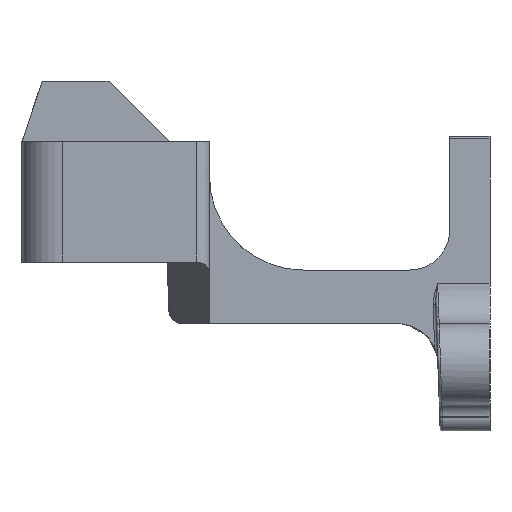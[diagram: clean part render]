
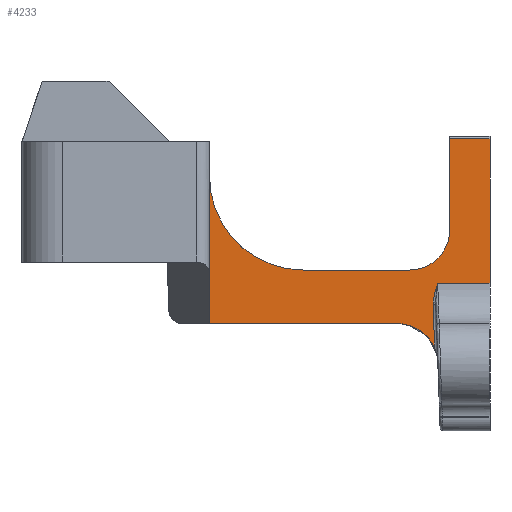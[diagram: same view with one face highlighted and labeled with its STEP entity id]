
A CAD part, left-side view. The second image highlights one B-rep face of the part: STEP entity #4233.
In plain terms, the highlighted planar face has unit normal (-1, 0, 0).
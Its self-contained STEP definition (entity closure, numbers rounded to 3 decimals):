
#17 = ORIENTED_EDGE ( 'NONE', *, *, #2860, .F. ) ;
#26 = CARTESIAN_POINT ( 'NONE',  ( 9.55, 4.355, 7.448 ) ) ;
#27 = LINE ( 'NONE', #378, #4224 ) ;
#56 = CIRCLE ( 'NONE', #2776, 7. ) ;
#64 = DIRECTION ( 'NONE',  ( 1., 0., 0. ) ) ;
#82 = ORIENTED_EDGE ( 'NONE', *, *, #1128, .T. ) ;
#134 = EDGE_CURVE ( 'NONE', #1388, #2795, #56, .T. ) ;
#182 = EDGE_CURVE ( 'NONE', #2795, #2487, #1245, .T. ) ;
#194 = CARTESIAN_POINT ( 'NONE',  ( 9.55, 0., 7. ) ) ;
#230 = CARTESIAN_POINT ( 'NONE',  ( 9.55, 0., 7.6 ) ) ;
#378 = CARTESIAN_POINT ( 'NONE',  ( 9.55, 0., 6. ) ) ;
#418 = PLANE ( 'NONE',  #3383 ) ;
#543 = CARTESIAN_POINT ( 'NONE',  ( 9.55, 6., 7. ) ) ;
#545 = CARTESIAN_POINT ( 'NONE',  ( 9.55, 4.26, 4.707 ) ) ;
#580 = VECTOR ( 'NONE', #2373, 1000. ) ;
#626 = CARTESIAN_POINT ( 'NONE',  ( 9.55, 13.95, 14. ) ) ;
#642 = VERTEX_POINT ( 'NONE', #1384 ) ;
#645 = DIRECTION ( 'NONE',  ( 1., 0., 0. ) ) ;
#743 = DIRECTION ( 'NONE',  ( 1., 0., 0. ) ) ;
#753 = CARTESIAN_POINT ( 'NONE',  ( 9.55, 3., 7. ) ) ;
#769 = CIRCLE ( 'NONE', #4518, 3. ) ;
#775 = CARTESIAN_POINT ( 'NONE',  ( 9.55, 20.95, 3. ) ) ;
#835 = VECTOR ( 'NONE', #1643, 1000. ) ;
#847 = CARTESIAN_POINT ( 'NONE',  ( 9.55, 0., 6. ) ) ;
#883 = ORIENTED_EDGE ( 'NONE', *, *, #2211, .T. ) ;
#997 = EDGE_CURVE ( 'NONE', #1388, #3170, #3187, .T. ) ;
#1026 = EDGE_LOOP ( 'NONE', ( #17, #3210, #4092, #1723, #1435, #4344, #1042, #4563, #1307, #82, #2177, #883 ) ) ;
#1042 = ORIENTED_EDGE ( 'NONE', *, *, #182, .T. ) ;
#1056 = CARTESIAN_POINT ( 'NONE',  ( 9.55, 3.905, 6. ) ) ;
#1071 = EDGE_CURVE ( 'NONE', #642, #3170, #3524, .T. ) ;
#1077 = DIRECTION ( 'NONE',  ( 0., 0.035, 0.999 ) ) ;
#1111 = VECTOR ( 'NONE', #1152, 1000. ) ;
#1114 = DIRECTION ( 'NONE',  ( 0., 0., 1. ) ) ;
#1128 = EDGE_CURVE ( 'NONE', #4538, #2348, #1658, .T. ) ;
#1152 = DIRECTION ( 'NONE',  ( 0., 1., 0. ) ) ;
#1155 = LINE ( 'NONE', #753, #1637 ) ;
#1205 = CARTESIAN_POINT ( 'NONE',  ( 9.55, 4.211, 4.971 ) ) ;
#1220 = CARTESIAN_POINT ( 'NONE',  ( 9.55, 4.136, 1.174 ) ) ;
#1245 = LINE ( 'NONE', #1319, #1621 ) ;
#1295 = DIRECTION ( 'NONE',  ( 0., -1., 0. ) ) ;
#1307 = ORIENTED_EDGE ( 'NONE', *, *, #2559, .T. ) ;
#1319 = CARTESIAN_POINT ( 'NONE',  ( 9.55, 20.95, 7.6 ) ) ;
#1320 = LINE ( 'NONE', #2661, #835 ) ;
#1374 = EDGE_CURVE ( 'NONE', #2348, #1590, #3503, .T. ) ;
#1384 = CARTESIAN_POINT ( 'NONE',  ( 9.55, 3., 10. ) ) ;
#1388 = VERTEX_POINT ( 'NONE', #4407 ) ;
#1392 = DIRECTION ( 'NONE',  ( 0., 0., -1. ) ) ;
#1395 = VECTOR ( 'NONE', #1077, 1000. ) ;
#1435 = ORIENTED_EDGE ( 'NONE', *, *, #997, .F. ) ;
#1590 = VERTEX_POINT ( 'NONE', #1056 ) ;
#1621 = VECTOR ( 'NONE', #2384, 1000. ) ;
#1637 = VECTOR ( 'NONE', #1114, 1000. ) ;
#1643 = DIRECTION ( 'NONE',  ( 0., 1., 0. ) ) ;
#1658 = LINE ( 'NONE', #26, #1395 ) ;
#1723 = ORIENTED_EDGE ( 'NONE', *, *, #1071, .T. ) ;
#1850 = VERTEX_POINT ( 'NONE', #3789 ) ;
#2039 = DIRECTION ( 'NONE',  ( 1., 0., 0. ) ) ;
#2072 = EDGE_CURVE ( 'NONE', #4215, #2487, #4162, .T. ) ;
#2177 = ORIENTED_EDGE ( 'NONE', *, *, #1374, .T. ) ;
#2181 = CARTESIAN_POINT ( 'NONE',  ( 9.55, 6.897, 3. ) ) ;
#2211 = EDGE_CURVE ( 'NONE', #1590, #3976, #27, .T. ) ;
#2298 = EDGE_CURVE ( 'NONE', #1850, #4504, #1320, .T. ) ;
#2348 = VERTEX_POINT ( 'NONE', #4131 ) ;
#2373 = DIRECTION ( 'NONE',  ( 0., 0., -1. ) ) ;
#2384 = DIRECTION ( 'NONE',  ( 0., 0., -1. ) ) ;
#2399 = CARTESIAN_POINT ( 'NONE',  ( 9.55, 6., 10. ) ) ;
#2423 = FACE_OUTER_BOUND ( 'NONE', #1026, .T. ) ;
#2456 = DIRECTION ( 'NONE',  ( 0., -1., 0. ) ) ;
#2487 = VERTEX_POINT ( 'NONE', #775 ) ;
#2519 = EDGE_CURVE ( 'NONE', #642, #4504, #1155, .T. ) ;
#2559 = EDGE_CURVE ( 'NONE', #4215, #4538, #769, .T. ) ;
#2631 = CARTESIAN_POINT ( 'NONE',  ( 9.55, 3.99, 5.747 ) ) ;
#2661 = CARTESIAN_POINT ( 'NONE',  ( 9.55, 0., 16.8 ) ) ;
#2776 = AXIS2_PLACEMENT_3D ( 'NONE', #626, #645, #4494 ) ;
#2795 = VERTEX_POINT ( 'NONE', #3002 ) ;
#2860 = EDGE_CURVE ( 'NONE', #1850, #3976, #4033, .T. ) ;
#2928 = CARTESIAN_POINT ( 'NONE',  ( 9.55, 0., 3. ) ) ;
#2969 = CARTESIAN_POINT ( 'NONE',  ( 9.55, 3., 16.8 ) ) ;
#3002 = CARTESIAN_POINT ( 'NONE',  ( 9.55, 20.95, 14. ) ) ;
#3141 = AXIS2_PLACEMENT_3D ( 'NONE', #2399, #2039, #1392 ) ;
#3170 = VERTEX_POINT ( 'NONE', #543 ) ;
#3187 = LINE ( 'NONE', #194, #4008 ) ;
#3210 = ORIENTED_EDGE ( 'NONE', *, *, #2298, .T. ) ;
#3344 = CARTESIAN_POINT ( 'NONE',  ( 9.55, 3.905, 6. ) ) ;
#3383 = AXIS2_PLACEMENT_3D ( 'NONE', #3885, #743, #4289 ) ;
#3503 = B_SPLINE_CURVE_WITH_KNOTS ( 'NONE', 3,
 ( #4348, #545, #1205, #4003, #2631, #3344 ),
 .UNSPECIFIED., .F., .F.,
 ( 4, 2, 4 ),
 ( 0., 0.001, 0.002 ),
 .UNSPECIFIED. ) ;
#3524 = CIRCLE ( 'NONE', #3141, 3. ) ;
#3789 = CARTESIAN_POINT ( 'NONE',  ( 9.55, 0., 16.8 ) ) ;
#3885 = CARTESIAN_POINT ( 'NONE',  ( 9.55, 0., 7.6 ) ) ;
#3976 = VERTEX_POINT ( 'NONE', #847 ) ;
#3997 = DIRECTION ( 'NONE',  ( 0., 0., -1. ) ) ;
#4003 = CARTESIAN_POINT ( 'NONE',  ( 9.55, 4.077, 5.491 ) ) ;
#4008 = VECTOR ( 'NONE', #1295, 1000. ) ;
#4033 = LINE ( 'NONE', #230, #580 ) ;
#4092 = ORIENTED_EDGE ( 'NONE', *, *, #2519, .F. ) ;
#4131 = CARTESIAN_POINT ( 'NONE',  ( 9.55, 4.25, 4.437 ) ) ;
#4162 = LINE ( 'NONE', #2928, #1111 ) ;
#4215 = VERTEX_POINT ( 'NONE', #2181 ) ;
#4224 = VECTOR ( 'NONE', #2456, 1000. ) ;
#4233 = ADVANCED_FACE ( 'NONE', ( #2423 ), #418, .F. ) ;
#4289 = DIRECTION ( 'NONE',  ( 0., 0., -1. ) ) ;
#4321 = CARTESIAN_POINT ( 'NONE',  ( 9.55, 6.897, 0. ) ) ;
#4344 = ORIENTED_EDGE ( 'NONE', *, *, #134, .T. ) ;
#4348 = CARTESIAN_POINT ( 'NONE',  ( 9.55, 4.25, 4.437 ) ) ;
#4407 = CARTESIAN_POINT ( 'NONE',  ( 9.55, 13.95, 7. ) ) ;
#4494 = DIRECTION ( 'NONE',  ( 0., 0., -1. ) ) ;
#4504 = VERTEX_POINT ( 'NONE', #2969 ) ;
#4518 = AXIS2_PLACEMENT_3D ( 'NONE', #4321, #64, #3997 ) ;
#4538 = VERTEX_POINT ( 'NONE', #1220 ) ;
#4563 = ORIENTED_EDGE ( 'NONE', *, *, #2072, .F. ) ;
